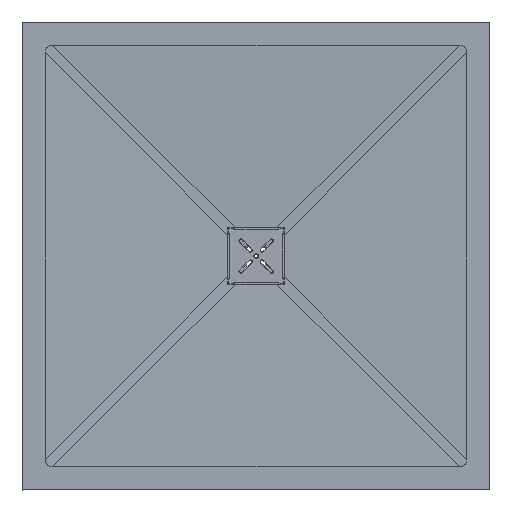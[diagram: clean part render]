
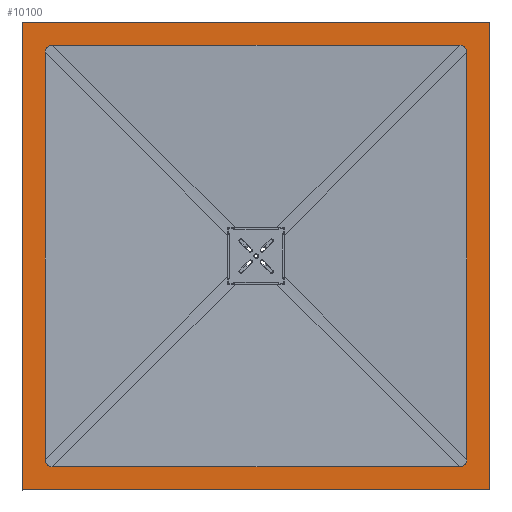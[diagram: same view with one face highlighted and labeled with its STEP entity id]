
A CAD part, top view. The second image highlights one B-rep face of the part: STEP entity #10100.
In plain terms, the highlighted planar face has unit normal (0, 0, 1).
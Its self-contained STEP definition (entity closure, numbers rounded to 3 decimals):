
#143 = VERTEX_POINT ( 'NONE', #6062 ) ;
#191 = CARTESIAN_POINT ( 'NONE',  ( -1427.066, -14.743, 297.307 ) ) ;
#236 = CARTESIAN_POINT ( 'NONE',  ( -1442.44, 0.63, 297.307 ) ) ;
#353 = CARTESIAN_POINT ( 'NONE',  ( -542.44, 0.63, 297.307 ) ) ;
#458 = EDGE_CURVE ( 'NONE', #4607, #143, #1705, .T. ) ;
#483 = CARTESIAN_POINT ( 'NONE',  ( -1442.44, 869.883, 297.307 ) ) ;
#512 = EDGE_LOOP ( 'NONE', ( #9577, #5082, #4659, #2004, #7087, #1887, #7067, #5639 ) ) ;
#723 = VERTEX_POINT ( 'NONE', #4033 ) ;
#776 = CARTESIAN_POINT ( 'NONE',  ( -557.813, 885.257, 297.307 ) ) ;
#860 = ORIENTED_EDGE ( 'NONE', *, *, #3904, .T. ) ;
#882 = CARTESIAN_POINT ( 'NONE',  ( -542.44, 869.883, 297.307 ) ) ;
#985 = VECTOR ( 'NONE', #8120, 1000. ) ;
#996 = VECTOR ( 'NONE', #2721, 1000. ) ;
#1083 = DIRECTION ( 'NONE',  ( 1., 0., 0. ) ) ;
#1088 = EDGE_CURVE ( 'NONE', #1128, #6524, #9004, .T. ) ;
#1122 = VERTEX_POINT ( 'NONE', #8945 ) ;
#1128 = VERTEX_POINT ( 'NONE', #4188 ) ;
#1195 = LINE ( 'NONE', #9695, #7988 ) ;
#1559 = CARTESIAN_POINT ( 'NONE',  ( -542.44, 869.883, 297.307 ) ) ;
#1662 = DIRECTION ( 'NONE',  ( -1., 0., 0. ) ) ;
#1705 = LINE ( 'NONE', #7119, #7532 ) ;
#1829 = DIRECTION ( 'NONE',  ( 1., 0., 0. ) ) ;
#1857 = FACE_OUTER_BOUND ( 'NONE', #4705, .T. ) ;
#1887 = ORIENTED_EDGE ( 'NONE', *, *, #458, .T. ) ;
#1973 =( BOUNDED_CURVE ( )  B_SPLINE_CURVE ( 3, ( #776, #2958, #6074, #882 ),
 .UNSPECIFIED., .F., .T. ) 
 B_SPLINE_CURVE_WITH_KNOTS ( ( 4, 4 ),
 ( 3.114, 3.169 ),
 .UNSPECIFIED. ) 
 CURVE ( )  GEOMETRIC_REPRESENTATION_ITEM ( )  RATIONAL_B_SPLINE_CURVE ( ( 1., 1., 1., 1. ) ) 
 REPRESENTATION_ITEM ( '' )  );
#2004 = ORIENTED_EDGE ( 'NONE', *, *, #4081, .T. ) ;
#2126 = CARTESIAN_POINT ( 'NONE',  ( -1442.44, 880.131, 297.307 ) ) ;
#2229 = CARTESIAN_POINT ( 'NONE',  ( -1437.314, 885.257, 297.307 ) ) ;
#2721 = DIRECTION ( 'NONE',  ( 0., 1., 0. ) ) ;
#2788 = AXIS2_PLACEMENT_3D ( 'NONE', #8096, #2896, #7446 ) ;
#2896 = DIRECTION ( 'NONE',  ( 0., 0., 1. ) ) ;
#2958 = CARTESIAN_POINT ( 'NONE',  ( -547.565, 885.257, 297.307 ) ) ;
#3035 = EDGE_CURVE ( 'NONE', #9235, #1122, #8841, .T. ) ;
#3084 =( BOUNDED_CURVE ( )  B_SPLINE_CURVE ( 3, ( #191, #5731, #8696, #236 ),
 .UNSPECIFIED., .F., .T. ) 
 B_SPLINE_CURVE_WITH_KNOTS ( ( 4, 4 ),
 ( 6.256, 6.31 ),
 .UNSPECIFIED. ) 
 CURVE ( )  GEOMETRIC_REPRESENTATION_ITEM ( )  RATIONAL_B_SPLINE_CURVE ( ( 1., 1., 1., 1. ) ) 
 REPRESENTATION_ITEM ( '' )  );
#3242 = DIRECTION ( 'NONE',  ( -1., 0., 0. ) ) ;
#3405 = VECTOR ( 'NONE', #1662, 1000. ) ;
#3471 = EDGE_CURVE ( 'NONE', #6524, #5371, #10077, .T. ) ;
#3627 = CARTESIAN_POINT ( 'NONE',  ( -557.813, -14.743, 297.307 ) ) ;
#3660 = CARTESIAN_POINT ( 'NONE',  ( -1492.44, -64.743, 297.307 ) ) ;
#3671 = FACE_BOUND ( 'NONE', #512, .T. ) ;
#3799 = VERTEX_POINT ( 'NONE', #3948 ) ;
#3904 = EDGE_CURVE ( 'NONE', #1122, #7115, #4875, .T. ) ;
#3937 = LINE ( 'NONE', #9478, #10006 ) ;
#3948 = CARTESIAN_POINT ( 'NONE',  ( -542.44, 0.63, 297.307 ) ) ;
#4033 = CARTESIAN_POINT ( 'NONE',  ( -1492.44, 935.257, 297.307 ) ) ;
#4081 = EDGE_CURVE ( 'NONE', #9834, #3799, #3937, .T. ) ;
#4109 = EDGE_CURVE ( 'NONE', #723, #9235, #5069, .T. ) ;
#4188 = CARTESIAN_POINT ( 'NONE',  ( -1442.44, 0.63, 297.307 ) ) ;
#4241 = CARTESIAN_POINT ( 'NONE',  ( -1492.44, 435.257, 297.307 ) ) ;
#4438 = CARTESIAN_POINT ( 'NONE',  ( -1427.066, 885.257, 297.307 ) ) ;
#4579 = CARTESIAN_POINT ( 'NONE',  ( -1427.066, 885.257, 297.307 ) ) ;
#4607 = VERTEX_POINT ( 'NONE', #3627 ) ;
#4659 = ORIENTED_EDGE ( 'NONE', *, *, #9856, .T. ) ;
#4705 = EDGE_LOOP ( 'NONE', ( #9612, #860, #9173, #9952 ) ) ;
#4875 = LINE ( 'NONE', #7170, #996 ) ;
#5015 = CARTESIAN_POINT ( 'NONE',  ( -1442.44, 935.257, 297.307 ) ) ;
#5069 = LINE ( 'NONE', #4241, #6075 ) ;
#5082 = ORIENTED_EDGE ( 'NONE', *, *, #7330, .T. ) ;
#5371 = VERTEX_POINT ( 'NONE', #4579 ) ;
#5465 = EDGE_CURVE ( 'NONE', #7115, #723, #5638, .T. ) ;
#5625 = DIRECTION ( 'NONE',  ( 0., -1., 0. ) ) ;
#5638 = LINE ( 'NONE', #7940, #3405 ) ;
#5639 = ORIENTED_EDGE ( 'NONE', *, *, #1088, .T. ) ;
#5731 = CARTESIAN_POINT ( 'NONE',  ( -1437.314, -14.743, 297.307 ) ) ;
#5825 =( BOUNDED_CURVE ( )  B_SPLINE_CURVE ( 3, ( #353, #5839, #8348, #6616 ),
 .UNSPECIFIED., .F., .T. ) 
 B_SPLINE_CURVE_WITH_KNOTS ( ( 4, 4 ),
 ( 3.114, 3.169 ),
 .UNSPECIFIED. ) 
 CURVE ( )  GEOMETRIC_REPRESENTATION_ITEM ( )  RATIONAL_B_SPLINE_CURVE ( ( 1., 1., 1., 1. ) ) 
 REPRESENTATION_ITEM ( '' )  );
#5839 = CARTESIAN_POINT ( 'NONE',  ( -542.44, -9.618, 297.307 ) ) ;
#5968 = CARTESIAN_POINT ( 'NONE',  ( -557.813, 885.257, 297.307 ) ) ;
#6062 = CARTESIAN_POINT ( 'NONE',  ( -1427.066, -14.743, 297.307 ) ) ;
#6074 = CARTESIAN_POINT ( 'NONE',  ( -542.44, 880.131, 297.307 ) ) ;
#6075 = VECTOR ( 'NONE', #7518, 1000. ) ;
#6391 = VECTOR ( 'NONE', #1829, 1000. ) ;
#6403 = EDGE_CURVE ( 'NONE', #3799, #4607, #5825, .T. ) ;
#6524 = VERTEX_POINT ( 'NONE', #8522 ) ;
#6616 = CARTESIAN_POINT ( 'NONE',  ( -557.813, -14.743, 297.307 ) ) ;
#6650 = CARTESIAN_POINT ( 'NONE',  ( -992.44, -64.743, 297.307 ) ) ;
#7067 = ORIENTED_EDGE ( 'NONE', *, *, #7907, .T. ) ;
#7087 = ORIENTED_EDGE ( 'NONE', *, *, #6403, .T. ) ;
#7115 = VERTEX_POINT ( 'NONE', #8857 ) ;
#7119 = CARTESIAN_POINT ( 'NONE',  ( -992.44, -14.743, 297.307 ) ) ;
#7170 = CARTESIAN_POINT ( 'NONE',  ( -492.44, 435.257, 297.307 ) ) ;
#7330 = EDGE_CURVE ( 'NONE', #5371, #9673, #1195, .T. ) ;
#7446 = DIRECTION ( 'NONE',  ( 0., -1., 0. ) ) ;
#7518 = DIRECTION ( 'NONE',  ( 0., -1., 0. ) ) ;
#7532 = VECTOR ( 'NONE', #3242, 1000. ) ;
#7907 = EDGE_CURVE ( 'NONE', #143, #1128, #3084, .T. ) ;
#7940 = CARTESIAN_POINT ( 'NONE',  ( -992.44, 935.257, 297.307 ) ) ;
#7988 = VECTOR ( 'NONE', #1083, 1000. ) ;
#8096 = CARTESIAN_POINT ( 'NONE',  ( -492.44, 935.257, 297.307 ) ) ;
#8120 = DIRECTION ( 'NONE',  ( 0., 1., 0. ) ) ;
#8150 = PLANE ( 'NONE',  #2788 ) ;
#8348 = CARTESIAN_POINT ( 'NONE',  ( -547.565, -14.743, 297.307 ) ) ;
#8522 = CARTESIAN_POINT ( 'NONE',  ( -1442.44, 869.883, 297.307 ) ) ;
#8696 = CARTESIAN_POINT ( 'NONE',  ( -1442.44, -9.618, 297.307 ) ) ;
#8841 = LINE ( 'NONE', #6650, #6391 ) ;
#8857 = CARTESIAN_POINT ( 'NONE',  ( -492.44, 935.257, 297.307 ) ) ;
#8945 = CARTESIAN_POINT ( 'NONE',  ( -492.44, -64.743, 297.307 ) ) ;
#9004 = LINE ( 'NONE', #5015, #985 ) ;
#9173 = ORIENTED_EDGE ( 'NONE', *, *, #5465, .T. ) ;
#9235 = VERTEX_POINT ( 'NONE', #3660 ) ;
#9478 = CARTESIAN_POINT ( 'NONE',  ( -542.44, 935.257, 297.307 ) ) ;
#9577 = ORIENTED_EDGE ( 'NONE', *, *, #3471, .T. ) ;
#9612 = ORIENTED_EDGE ( 'NONE', *, *, #3035, .T. ) ;
#9673 = VERTEX_POINT ( 'NONE', #5968 ) ;
#9695 = CARTESIAN_POINT ( 'NONE',  ( -492.44, 885.257, 297.307 ) ) ;
#9834 = VERTEX_POINT ( 'NONE', #1559 ) ;
#9856 = EDGE_CURVE ( 'NONE', #9673, #9834, #1973, .T. ) ;
#9952 = ORIENTED_EDGE ( 'NONE', *, *, #4109, .T. ) ;
#10006 = VECTOR ( 'NONE', #5625, 1000. ) ;
#10077 =( BOUNDED_CURVE ( )  B_SPLINE_CURVE ( 3, ( #483, #2126, #2229, #4438 ),
 .UNSPECIFIED., .F., .T. ) 
 B_SPLINE_CURVE_WITH_KNOTS ( ( 4, 4 ),
 ( 6.256, 6.31 ),
 .UNSPECIFIED. ) 
 CURVE ( )  GEOMETRIC_REPRESENTATION_ITEM ( )  RATIONAL_B_SPLINE_CURVE ( ( 1., 1., 1., 1. ) ) 
 REPRESENTATION_ITEM ( '' )  );
#10100 = ADVANCED_FACE ( 'NONE', ( #3671, #1857 ), #8150, .T. ) ;
